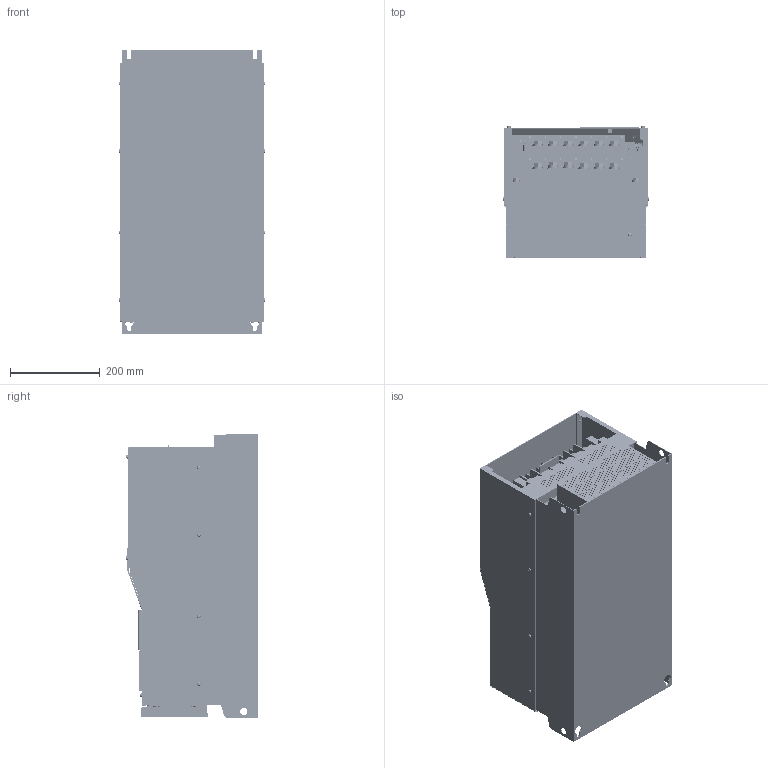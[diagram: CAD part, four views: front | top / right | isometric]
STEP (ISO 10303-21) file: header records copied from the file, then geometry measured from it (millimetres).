
FILE_DESCRIPTION((''),'2;1');
FILE_NAME('VFAS3J_J9_ASM','2019-09-19T09:57:06',('SESA57331'),('Schneider-Electric'),'CREO PARAMETRIC BY PTC INC, 2018300','CREO PARAMETRIC BY PTC INC, 2018300','');
FILE_SCHEMA(('CONFIG_CONTROL_DESIGN'));
Products named in the file (19): VFAS3J_DRIVE_J9; VFAS3J_CTR_TERM; VFAS3J_CTR_TERM_SHORT_BAR; VFAS3J_CTR_TERM_SCREW_M3-1; VFAS3J_CTR_TERM_SCREW_M3-2; VFAS3J_CTR_TERM_FL_COVER; VFAS3J_CTR_TERM_ASM; VFAS3J_DISPLAY; VFAS3J_DISPLAY_COVER; TERM_SUNT-BAR_M12; TERM_SCREW_M12X25; TERM_SCREW_M8X20; SCREW_M5X12; SCREW_M4X16; VFAS3J_TOP_COVER_J9; VFAS3J_FRONT_COVER_J9; VFAS3J_CTR_CAP_J9; VFAS3J_FRONT_COVER_J9_ASM; VFAS3J_J9_ASM
Assembly tree (55 placements, depth 3):
  VFAS3J_J9_ASM
    VFAS3J_DRIVE_J9
    VFAS3J_CTR_TERM_ASM
      VFAS3J_CTR_TERM
      VFAS3J_CTR_TERM_SHORT_BAR  x2
      VFAS3J_CTR_TERM_SCREW_M3-1  x23
      VFAS3J_CTR_TERM_SCREW_M3-2  x3
      VFAS3J_CTR_TERM_FL_COVER
    VFAS3J_DISPLAY
    VFAS3J_DISPLAY_COVER
    TERM_SUNT-BAR_M12
    TERM_SCREW_M12X25  x12
    TERM_SCREW_M8X20  x2
    SCREW_M5X12
    SCREW_M4X16
    VFAS3J_TOP_COVER_J9
    VFAS3J_FRONT_COVER_J9_ASM
      VFAS3J_FRONT_COVER_J9
      VFAS3J_CTR_CAP_J9
Bounding box: 326 x 294.2 x 630 mm (x, y, z)
Volume: 43095863 mm3; surface area: 1998092.9 mm2
Topology: 53 solids, 55 shells, 5633 faces, 14337 edges, 9397 vertices
Faces by surface type: plane 3888, cylinder 1577, torus 103, sphere 26, bspline 25, cone 14
Entity records: 155288 total; most frequent: CARTESIAN_POINT 27875, DIRECTION 26294, ORIENTED_EDGE 26142, EDGE_CURVE 13071, VECTOR 9936, LINE 9936, VERTEX_POINT 8591, AXIS2_PLACEMENT_3D 8179
